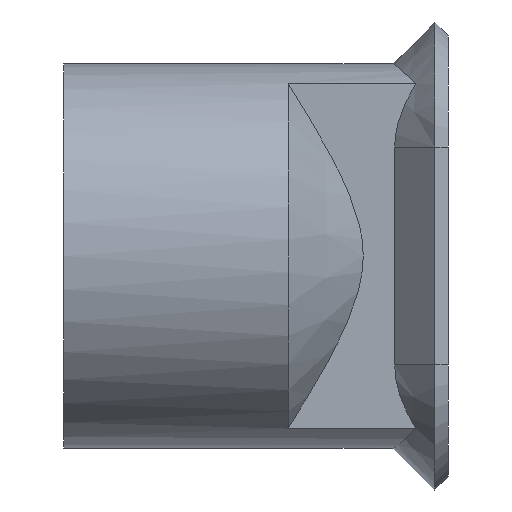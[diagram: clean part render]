
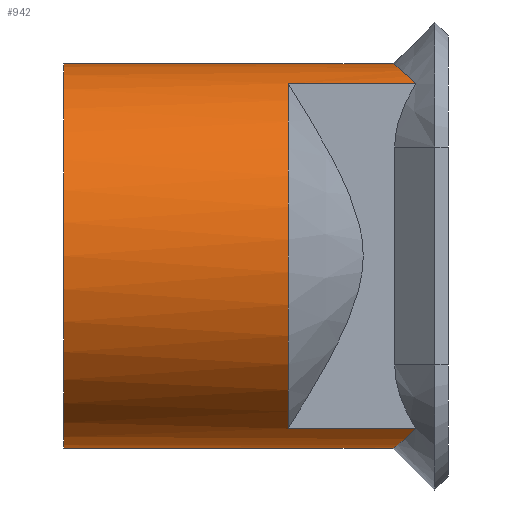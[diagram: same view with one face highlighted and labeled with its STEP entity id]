
A CAD part, left-side view. The second image highlights one B-rep face of the part: STEP entity #942.
In plain terms, the highlighted cylindrical face has radius 3 mm (diameter 6 mm), a partial arc.
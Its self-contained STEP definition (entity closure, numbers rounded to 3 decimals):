
#26 = AXIS2_PLACEMENT_3D ( 'NONE', #1414, #1411, #1407 ) ;
#28 = VECTOR ( 'NONE', #717, 1000. ) ;
#37 = EDGE_CURVE ( 'NONE', #1233, #1498, #139, .T. ) ;
#41 = LINE ( 'NONE', #900, #1514 ) ;
#42 = LINE ( 'NONE', #1074, #1147 ) ;
#56 = CIRCLE ( 'NONE', #744, 3. ) ;
#58 = CARTESIAN_POINT ( 'NONE',  ( -0.923, 0.693, -2.864 ) ) ;
#139 = B_SPLINE_CURVE_WITH_KNOTS ( 'NONE', 3,
 ( #651, #221, #725, #665, #660, #679 ),
 .UNSPECIFIED., .F., .F.,
 ( 4, 2, 4 ),
 ( 0., 0.001, 0.001 ),
 .UNSPECIFIED. ) ;
#159 = CARTESIAN_POINT ( 'NONE',  ( -1.325, 0., 2.692 ) ) ;
#198 = LINE ( 'NONE', #1463, #420 ) ;
#199 = CARTESIAN_POINT ( 'NONE',  ( -1.325, 2.5, 2.692 ) ) ;
#211 = ORIENTED_EDGE ( 'NONE', *, *, #244, .T. ) ;
#218 = CARTESIAN_POINT ( 'NONE',  ( 0., 0.862, 3. ) ) ;
#221 = CARTESIAN_POINT ( 'NONE',  ( -0.241, 0.862, 3. ) ) ;
#244 = EDGE_CURVE ( 'NONE', #1174, #1498, #401, .T. ) ;
#275 = VERTEX_POINT ( 'NONE', #379 ) ;
#347 = VERTEX_POINT ( 'NONE', #857 ) ;
#379 = CARTESIAN_POINT ( 'NONE',  ( 0., 0.862, -3. ) ) ;
#399 = CARTESIAN_POINT ( 'NONE',  ( 0., 6., 3. ) ) ;
#401 = LINE ( 'NONE', #159, #28 ) ;
#410 = ORIENTED_EDGE ( 'NONE', *, *, #485, .T. ) ;
#420 = VECTOR ( 'NONE', #1260, 1000. ) ;
#445 = CARTESIAN_POINT ( 'NONE',  ( -1.325, 0.507, -2.692 ) ) ;
#485 = EDGE_CURVE ( 'NONE', #780, #950, #42, .T. ) ;
#507 = ORIENTED_EDGE ( 'NONE', *, *, #973, .F. ) ;
#582 = FACE_OUTER_BOUND ( 'NONE', #967, .T. ) ;
#595 = CARTESIAN_POINT ( 'NONE',  ( -1.325, 0.507, 2.692 ) ) ;
#603 = DIRECTION ( 'NONE',  ( 0., -1., 0. ) ) ;
#604 = CIRCLE ( 'NONE', #26, 3. ) ;
#611 = ORIENTED_EDGE ( 'NONE', *, *, #726, .T. ) ;
#639 = CARTESIAN_POINT ( 'NONE',  ( 0., 6., 0. ) ) ;
#651 = CARTESIAN_POINT ( 'NONE',  ( 0., 0.862, 3. ) ) ;
#660 = CARTESIAN_POINT ( 'NONE',  ( -1.129, 0.606, 2.788 ) ) ;
#665 = CARTESIAN_POINT ( 'NONE',  ( -0.922, 0.694, 2.864 ) ) ;
#679 = CARTESIAN_POINT ( 'NONE',  ( -1.325, 0.507, 2.692 ) ) ;
#704 = AXIS2_PLACEMENT_3D ( 'NONE', #1350, #1348, #944 ) ;
#717 = DIRECTION ( 'NONE',  ( 0., -1., 0. ) ) ;
#720 = EDGE_CURVE ( 'NONE', #780, #275, #1412, .T. ) ;
#725 = CARTESIAN_POINT ( 'NONE',  ( -0.475, 0.823, 2.971 ) ) ;
#726 = EDGE_CURVE ( 'NONE', #347, #275, #41, .T. ) ;
#744 = AXIS2_PLACEMENT_3D ( 'NONE', #639, #603, #1160 ) ;
#770 = EDGE_CURVE ( 'NONE', #1398, #347, #56, .T. ) ;
#780 = VERTEX_POINT ( 'NONE', #445 ) ;
#857 = CARTESIAN_POINT ( 'NONE',  ( 0., 6., -3. ) ) ;
#870 = CARTESIAN_POINT ( 'NONE',  ( -0.241, 0.862, -3. ) ) ;
#873 = CARTESIAN_POINT ( 'NONE',  ( 0., 0.862, -3. ) ) ;
#898 = EDGE_CURVE ( 'NONE', #950, #1174, #604, .T. ) ;
#900 = CARTESIAN_POINT ( 'NONE',  ( 0., 0., -3. ) ) ;
#933 = ORIENTED_EDGE ( 'NONE', *, *, #770, .T. ) ;
#942 = ADVANCED_FACE ( 'NONE', ( #582 ), #1447, .T. ) ;
#944 = DIRECTION ( 'NONE',  ( 0., 0., -1. ) ) ;
#950 = VERTEX_POINT ( 'NONE', #1328 ) ;
#967 = EDGE_LOOP ( 'NONE', ( #507, #933, #611, #1105, #410, #1271, #211, #1051 ) ) ;
#973 = EDGE_CURVE ( 'NONE', #1398, #1233, #198, .T. ) ;
#999 = CARTESIAN_POINT ( 'NONE',  ( -0.48, 0.822, -2.97 ) ) ;
#1051 = ORIENTED_EDGE ( 'NONE', *, *, #37, .F. ) ;
#1074 = CARTESIAN_POINT ( 'NONE',  ( -1.325, 0., -2.692 ) ) ;
#1105 = ORIENTED_EDGE ( 'NONE', *, *, #720, .F. ) ;
#1112 = CARTESIAN_POINT ( 'NONE',  ( -1.325, 0.507, -2.692 ) ) ;
#1141 = CARTESIAN_POINT ( 'NONE',  ( -1.129, 0.606, -2.788 ) ) ;
#1147 = VECTOR ( 'NONE', #1193, 1000. ) ;
#1160 = DIRECTION ( 'NONE',  ( 0., 0., -1. ) ) ;
#1174 = VERTEX_POINT ( 'NONE', #199 ) ;
#1193 = DIRECTION ( 'NONE',  ( 0., 1., 0. ) ) ;
#1233 = VERTEX_POINT ( 'NONE', #218 ) ;
#1260 = DIRECTION ( 'NONE',  ( 0., -1., 0. ) ) ;
#1271 = ORIENTED_EDGE ( 'NONE', *, *, #898, .T. ) ;
#1328 = CARTESIAN_POINT ( 'NONE',  ( -1.325, 2.5, -2.692 ) ) ;
#1348 = DIRECTION ( 'NONE',  ( 0., -1., 0. ) ) ;
#1350 = CARTESIAN_POINT ( 'NONE',  ( 0., 0., 0. ) ) ;
#1398 = VERTEX_POINT ( 'NONE', #399 ) ;
#1407 = DIRECTION ( 'NONE',  ( 0., 0., -1. ) ) ;
#1411 = DIRECTION ( 'NONE',  ( 0., 1., 0. ) ) ;
#1412 = B_SPLINE_CURVE_WITH_KNOTS ( 'NONE', 3,
 ( #1112, #1141, #58, #999, #870, #873 ),
 .UNSPECIFIED., .F., .F.,
 ( 4, 2, 4 ),
 ( -0.001, -0.001, 0. ),
 .UNSPECIFIED. ) ;
#1414 = CARTESIAN_POINT ( 'NONE',  ( 0., 2.5, 0. ) ) ;
#1447 = CYLINDRICAL_SURFACE ( 'NONE', #704, 3. ) ;
#1463 = CARTESIAN_POINT ( 'NONE',  ( 0., 0., 3. ) ) ;
#1466 = DIRECTION ( 'NONE',  ( 0., -1., 0. ) ) ;
#1498 = VERTEX_POINT ( 'NONE', #595 ) ;
#1514 = VECTOR ( 'NONE', #1466, 1000. ) ;
